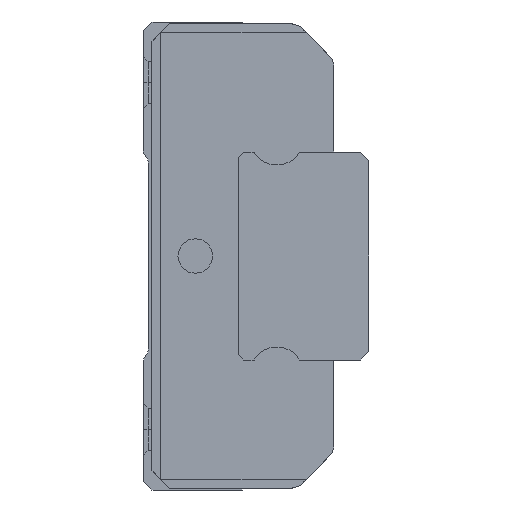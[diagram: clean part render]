
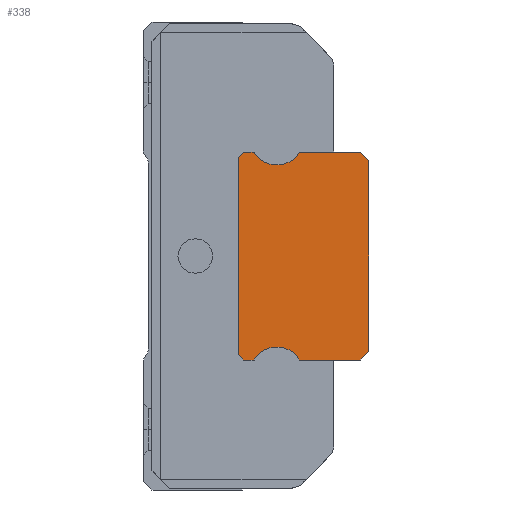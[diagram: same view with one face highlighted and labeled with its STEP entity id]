
A CAD part, left-side view. The second image highlights one B-rep face of the part: STEP entity #338.
In plain terms, the highlighted planar face has unit normal (-1, 0, 0).
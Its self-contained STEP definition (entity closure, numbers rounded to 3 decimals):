
#338 = ADVANCED_FACE( '', ( #990 ), #991, .F. );
#990 = FACE_OUTER_BOUND( '', #1748, .T. );
#991 = PLANE( '', #1749 );
#1748 = EDGE_LOOP( '', ( #3631, #3632, #3633, #3634, #3635, #3636, #3637, #3638, #3639, #3640, #3641, #3642, #3643, #3644 ) );
#1749 = AXIS2_PLACEMENT_3D( '', #3645, #3646, #3647 );
#3631 = ORIENTED_EDGE( '', *, *, #4973, .F. );
#3632 = ORIENTED_EDGE( '', *, *, #4934, .F. );
#3633 = ORIENTED_EDGE( '', *, *, #4938, .F. );
#3634 = ORIENTED_EDGE( '', *, *, #4941, .F. );
#3635 = ORIENTED_EDGE( '', *, *, #4944, .F. );
#3636 = ORIENTED_EDGE( '', *, *, #4947, .F. );
#3637 = ORIENTED_EDGE( '', *, *, #4950, .F. );
#3638 = ORIENTED_EDGE( '', *, *, #4953, .F. );
#3639 = ORIENTED_EDGE( '', *, *, #4956, .F. );
#3640 = ORIENTED_EDGE( '', *, *, #4959, .F. );
#3641 = ORIENTED_EDGE( '', *, *, #4962, .F. );
#3642 = ORIENTED_EDGE( '', *, *, #4965, .F. );
#3643 = ORIENTED_EDGE( '', *, *, #4968, .F. );
#3644 = ORIENTED_EDGE( '', *, *, #4971, .F. );
#3645 = CARTESIAN_POINT( '', ( -12.5, 0., 0. ) );
#3646 = DIRECTION( '', ( 1., 0., 0. ) );
#3647 = DIRECTION( '', ( 0., 0., -1. ) );
#4934 = EDGE_CURVE( '', #6029, #6031, #6032, .T. );
#4938 = EDGE_CURVE( '', #6036, #6029, #6038, .T. );
#4941 = EDGE_CURVE( '', #6041, #6036, #6043, .T. );
#4944 = EDGE_CURVE( '', #6046, #6041, #6048, .T. );
#4947 = EDGE_CURVE( '', #6051, #6046, #6053, .T. );
#4950 = EDGE_CURVE( '', #6056, #6051, #6058, .T. );
#4953 = EDGE_CURVE( '', #6061, #6056, #6063, .T. );
#4956 = EDGE_CURVE( '', #6066, #6061, #6068, .T. );
#4959 = EDGE_CURVE( '', #6071, #6066, #6073, .T. );
#4962 = EDGE_CURVE( '', #6076, #6071, #6078, .T. );
#4965 = EDGE_CURVE( '', #6081, #6076, #6083, .T. );
#4968 = EDGE_CURVE( '', #6086, #6081, #6088, .T. );
#4971 = EDGE_CURVE( '', #6091, #6086, #6093, .T. );
#4973 = EDGE_CURVE( '', #6031, #6091, #6095, .T. );
#6029 = VERTEX_POINT( '', #7472 );
#6031 = VERTEX_POINT( '', #7475 );
#6032 = LINE( '', #7476, #7477 );
#6036 = VERTEX_POINT( '', #7482 );
#6038 = CIRCLE( '', #7485, 1.38 );
#6041 = VERTEX_POINT( '', #7488 );
#6043 = CIRCLE( '', #7491, 1.38 );
#6046 = VERTEX_POINT( '', #7495 );
#6048 = LINE( '', #7498, #7499 );
#6051 = VERTEX_POINT( '', #7503 );
#6053 = LINE( '', #7506, #7507 );
#6056 = VERTEX_POINT( '', #7511 );
#6058 = LINE( '', #7514, #7515 );
#6061 = VERTEX_POINT( '', #7519 );
#6063 = LINE( '', #7522, #7523 );
#6066 = VERTEX_POINT( '', #7527 );
#6068 = LINE( '', #7530, #7531 );
#6071 = VERTEX_POINT( '', #7534 );
#6073 = CIRCLE( '', #7537, 1.38 );
#6076 = VERTEX_POINT( '', #7540 );
#6078 = CIRCLE( '', #7543, 1.38 );
#6081 = VERTEX_POINT( '', #7547 );
#6083 = LINE( '', #7550, #7551 );
#6086 = VERTEX_POINT( '', #7555 );
#6088 = LINE( '', #7558, #7559 );
#6091 = VERTEX_POINT( '', #7563 );
#6093 = LINE( '', #7566, #7567 );
#6095 = LINE( '', #7570, #7571 );
#7472 = CARTESIAN_POINT( '', ( -12.5, 3.987, 6. ) );
#7475 = CARTESIAN_POINT( '', ( -12.5, 0.5, 6. ) );
#7476 = CARTESIAN_POINT( '', ( -12.5, 3.987, 6. ) );
#7477 = VECTOR( '', #9298, 1. );
#7482 = CARTESIAN_POINT( '', ( -12.5, 5.3, 5.263 ) );
#7485 = AXIS2_PLACEMENT_3D( '', #9304, #9305, #9306 );
#7488 = CARTESIAN_POINT( '', ( -12.5, 6.613, 6. ) );
#7491 = AXIS2_PLACEMENT_3D( '', #9311, #9312, #9313 );
#7495 = CARTESIAN_POINT( '', ( -12.5, 7.2, 6. ) );
#7498 = CARTESIAN_POINT( '', ( -12.5, 7.2, 6. ) );
#7499 = VECTOR( '', #9316, 1. );
#7503 = CARTESIAN_POINT( '', ( -12.5, 7.5, 5.7 ) );
#7506 = CARTESIAN_POINT( '', ( -12.5, 7.5, 5.7 ) );
#7507 = VECTOR( '', #9319, 1. );
#7511 = CARTESIAN_POINT( '', ( -12.5, 7.5, -5.7 ) );
#7514 = CARTESIAN_POINT( '', ( -12.5, 7.5, -5.7 ) );
#7515 = VECTOR( '', #9322, 1. );
#7519 = CARTESIAN_POINT( '', ( -12.5, 7.2, -6. ) );
#7522 = CARTESIAN_POINT( '', ( -12.5, 7.2, -6. ) );
#7523 = VECTOR( '', #9325, 1. );
#7527 = CARTESIAN_POINT( '', ( -12.5, 6.613, -6. ) );
#7530 = CARTESIAN_POINT( '', ( -12.5, 6.613, -6. ) );
#7531 = VECTOR( '', #9328, 1. );
#7534 = CARTESIAN_POINT( '', ( -12.5, 5.3, -5.263 ) );
#7537 = AXIS2_PLACEMENT_3D( '', #9333, #9334, #9335 );
#7540 = CARTESIAN_POINT( '', ( -12.5, 3.987, -6. ) );
#7543 = AXIS2_PLACEMENT_3D( '', #9340, #9341, #9342 );
#7547 = CARTESIAN_POINT( '', ( -12.5, 0.5, -6. ) );
#7550 = CARTESIAN_POINT( '', ( -12.5, 0.5, -6. ) );
#7551 = VECTOR( '', #9345, 1. );
#7555 = CARTESIAN_POINT( '', ( -12.5, 0., -5.5 ) );
#7558 = CARTESIAN_POINT( '', ( -12.5, 0., -5.5 ) );
#7559 = VECTOR( '', #9348, 1. );
#7563 = CARTESIAN_POINT( '', ( -12.5, 0., 5.5 ) );
#7566 = CARTESIAN_POINT( '', ( -12.5, 0., 5.5 ) );
#7567 = VECTOR( '', #9351, 1. );
#7570 = CARTESIAN_POINT( '', ( -12.5, 0.5, 6. ) );
#7571 = VECTOR( '', #9353, 1. );
#9298 = DIRECTION( '', ( 0., -1., 0. ) );
#9304 = CARTESIAN_POINT( '', ( -12.5, 5.21, 6.64 ) );
#9305 = DIRECTION( '', ( -1., 0., 0. ) );
#9306 = DIRECTION( '', ( 0., 0.065, -0.998 ) );
#9311 = CARTESIAN_POINT( '', ( -12.5, 5.39, 6.64 ) );
#9312 = DIRECTION( '', ( -1., 0., 0. ) );
#9313 = DIRECTION( '', ( 0., 0.886, -0.464 ) );
#9316 = DIRECTION( '', ( 0., -1., 0. ) );
#9319 = DIRECTION( '', ( 0., -0.707, 0.707 ) );
#9322 = DIRECTION( '', ( 0., 0., 1. ) );
#9325 = DIRECTION( '', ( 0., 0.707, 0.707 ) );
#9328 = DIRECTION( '', ( 0., 1., 0. ) );
#9333 = CARTESIAN_POINT( '', ( -12.5, 5.39, -6.64 ) );
#9334 = DIRECTION( '', ( -1., 0., 0. ) );
#9335 = DIRECTION( '', ( 0., -0.065, 0.998 ) );
#9340 = CARTESIAN_POINT( '', ( -12.5, 5.21, -6.64 ) );
#9341 = DIRECTION( '', ( -1., 0., 0. ) );
#9342 = DIRECTION( '', ( 0., -0.886, 0.464 ) );
#9345 = DIRECTION( '', ( 0., 1., 0. ) );
#9348 = DIRECTION( '', ( 0., 0.707, -0.707 ) );
#9351 = DIRECTION( '', ( 0., 0., -1. ) );
#9353 = DIRECTION( '', ( 0., -0.707, -0.707 ) );
